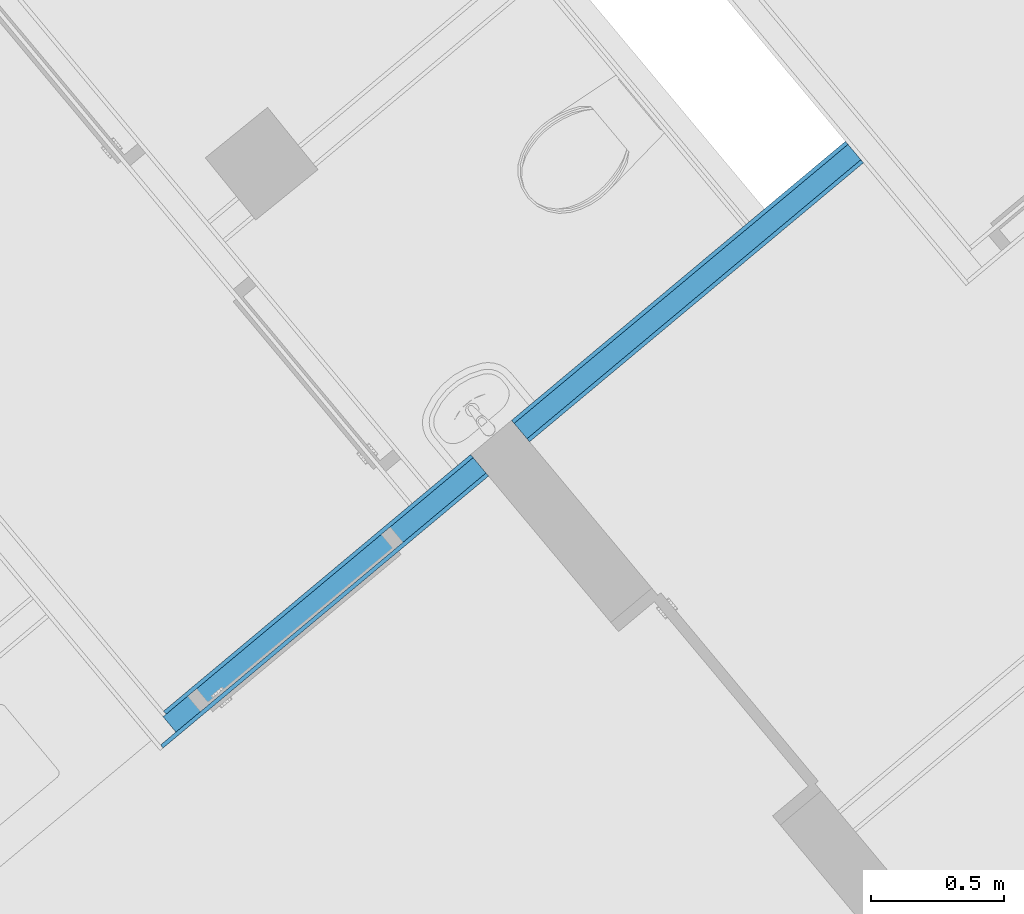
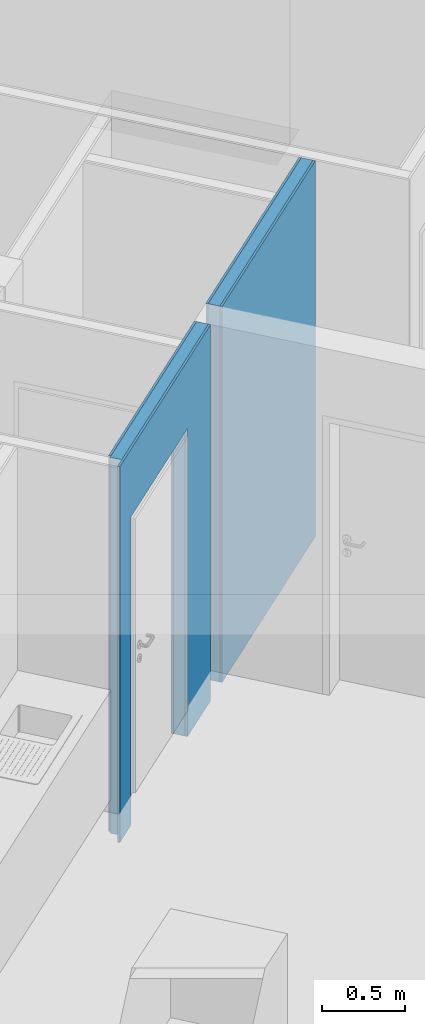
# One storey, part 12 of 53: 3 building element parts, 1 opening, 1 element without a shape of its own.
"""IFC4 building model written with IfcOpenShell, lengths in metres."""

from ifc_helpers import new_model, entity, si_unit, converted_unit, derived_unit, direction, frame, origin_with_axes, place, context, subcontext, project, spatial, polygons, material, type_object, element, aggregate, save


model = new_model("IFC4")

# Units and contexts
model_context = context("Model", 3, precision=1e-05, world=origin_with_axes(), true_north=direction((0.0, 1.0)))
body_context = subcontext(model_context, "Body", "Model", "MODEL_VIEW")
ifc_project = project(units=[si_unit("LENGTHUNIT", "METRE"), si_unit("AREAUNIT", "SQUARE_METRE"), si_unit("VOLUMEUNIT", "CUBIC_METRE"), converted_unit("PLANEANGLEUNIT", "DEGREE", entity("IfcPlaneAngleMeasure", 0.0174532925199), si_unit("PLANEANGLEUNIT", "RADIAN"), dimensions=[0, 0, 0, 0, 0, 0, 0]), converted_unit("TIMEUNIT", "Year", entity("IfcTimeMeasure", 31556926.0), si_unit("TIMEUNIT", "SECOND"), dimensions=[0, 0, 1, 0, 0, 0, 0]), si_unit("MASSUNIT", "GRAM", prefix="KILO"), si_unit("THERMODYNAMICTEMPERATUREUNIT", "DEGREE_CELSIUS"), si_unit("LUMINOUSINTENSITYUNIT", "LUMEN"), si_unit("ENERGYUNIT", "JOULE", prefix="MEGA"), derived_unit("THERMALCONDUCTANCEUNIT", [(si_unit("POWERUNIT", "WATT"), 1), (si_unit("LENGTHUNIT", "METRE"), -1), (si_unit("THERMODYNAMICTEMPERATUREUNIT", "KELVIN"), -1)]), derived_unit("SPECIFICHEATCAPACITYUNIT", [(si_unit("ENERGYUNIT", "JOULE"), 1), (si_unit("MASSUNIT", "GRAM", prefix="KILO"), -1), (si_unit("THERMODYNAMICTEMPERATUREUNIT", "KELVIN"), -1)]), derived_unit("MASSDENSITYUNIT", [(si_unit("MASSUNIT", "GRAM", prefix="KILO"), 1), (si_unit("VOLUMEUNIT", "CUBIC_METRE"), -1)])], contexts=[model_context])

# Site, building, storey
site_placement = place(None, frame((-0.00153261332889, -0.00661245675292, 0.0), z_axis=(0.0, 0.0, 1.0), x_axis=(1.0, 0.0, 0.0)))
site = spatial("IfcSite", under=ifc_project, at=site_placement, Name="Gelände", CompositionType="ELEMENT")
building_placement = place(site_placement, origin_with_axes())
building = spatial("IfcBuilding", under=site, at=building_placement, Name="Gebäude", CompositionType="ELEMENT")
storey_placement = place(building_placement, frame((0.0, 0.0, 2.74), z_axis=(0.0, 0.0, 1.0), x_axis=(1.0, 0.0, 0.0)))
storey = spatial("IfcBuildingStorey", under=building, at=storey_placement, Name="OG1", CompositionType="ELEMENT", Elevation=2.74)

# Wall, opening, building element parts
wall_type = type_object("IfcWallType", Name="IW LB 01 Leichtbautrennwand einfach 10,5 cm 105", PredefinedType="NOTDEFINED")
wall_placement = place(storey_placement, frame((-2.08312731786, 16.7658353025, 0.0), z_axis=(0.0, 0.0, 1.0), x_axis=(0.767365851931, 0.641209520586, 0.0)))
wall = element("IfcWall", 1, at=wall_placement, inside=storey, type_object=wall_type, Name="Wand-012", PredefinedType="NOTDEFINED")
opening_placement = place(wall_placement, frame((0.704535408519, 0.0, 0.22), z_axis=(0.0, 0.0, 1.0), x_axis=(1.0, 0.0, 0.0)))
element("IfcOpeningElement", 2, at=opening_placement, cuts=wall, Name="Tür-017", context=body_context, identifier="Reference", shape_type="Tessellation", body=[
    polygons([(0.495, 1.6911768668, 2.045), (0.495, 1.6911768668, -0.22), (-0.495, 1.6911768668, -0.22), (-0.495, 1.6911768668, 2.045), (0.495, -1.7961768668, 2.045), (0.495, -1.7961768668, -0.22), (-0.495, -1.7961768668, -0.22), (-0.495, -1.7961768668, 2.045)], [[[1, 2, 3, 4]], [[5, 6, 2, 1]], [[6, 7, 3, 2]], [[7, 8, 4, 3]], [[8, 5, 1, 4]], [[7, 6, 5, 8]]], closed=True),
])
ifc_material_1 = material(Name="Gipskarton")
building_element_part_1_placement = place(wall_placement, origin_with_axes())
building_element_part_1 = element("IfcBuildingElementPart", 3, at=building_element_part_1_placement, material=ifc_material_1, Name="Gipskarton", PredefinedType="NOTDEFINED", context=body_context, shape_type="Tessellation", body=[
    polygons([(0.209535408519, -0.015, 0.22), (0.209535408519, -0.015, 2.265), (1.19953540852, -0.015, 2.265), (1.19953540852, -0.015, 0.22), (1.19953540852, -0.015, 0.0), (1.60433833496, -0.015, 0.0), (1.60433833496, -0.015, 2.76), (0.105, -0.015, 2.76), (0.105, -0.015, 0.0), (0.209535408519, -0.015, 0.0), (0.209535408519, 7.71001129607e-08, 0.22), (0.209535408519, -3.17419406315e-08, 2.265), (1.19953540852, -3.17419441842e-08, 2.265), (1.19953540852, -3.17419441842e-08, 0.22), (1.19953540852, -3.17419424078e-08, 0.0), (1.60433833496, 0.0, 0.0), (1.60433833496, 0.0, 2.76), (0.105, 0.0, 2.76), (0.105, 0.0, 0.0), (0.209535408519, 7.71001129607e-08, 0.0)], [[[1, 2, 3, 4, 5, 6, 7, 8, 9, 10]], [[2, 1, 11, 12]], [[3, 2, 12, 13]], [[4, 3, 13, 14]], [[4, 14, 15, 5]], [[15, 16, 6, 5]], [[7, 6, 16, 17]], [[17, 18, 8, 7]], [[8, 18, 19, 9]], [[10, 9, 19, 20]], [[11, 1, 10, 20]], [[12, 11, 20, 19, 18, 17, 16, 15, 14, 13]]], closed=True),
    polygons([(3.43502357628, 0.0, 2.76), (1.80433833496, 0.0, 2.76), (1.80433833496, -0.015, 2.76), (3.43502357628, -0.015, 2.76), (3.43502357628, 0.0, 0.0), (1.80433833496, 0.0, 0.0), (1.80433833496, -0.015, 0.0), (3.43502357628, -0.015, 0.0)], [[[1, 2, 3, 4]], [[5, 6, 2, 1]], [[3, 2, 6, 7]], [[4, 3, 7, 8]], [[4, 8, 5, 1]], [[8, 7, 6, 5]]], closed=True),
])
ifc_material_2 = material(Name="Mineralwolle weich")
building_element_part_2_placement = place(wall_placement, origin_with_axes())
building_element_part_2 = element("IfcBuildingElementPart", 4, at=building_element_part_2_placement, material=ifc_material_2, Name="Mineralwolle weich", PredefinedType="NOTDEFINED", context=body_context, shape_type="Tessellation", body=[
    polygons([(0.209535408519, -0.09, 0.22), (0.209535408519, -0.09, 2.265), (1.19953540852, -0.09, 2.265), (1.19953540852, -0.09, 0.22), (1.19953540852, -0.09, 0.0), (1.60433833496, -0.09, 0.0), (1.60433833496, -0.09, 2.76), (0.0899999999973, -0.09, 2.76), (0.0899999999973, -0.09, 0.0), (0.209535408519, -0.09, 0.0), (0.209535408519, -0.015, 0.22), (0.209535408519, -0.015, 2.265), (1.19953540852, -0.015, 2.265), (1.19953540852, -0.015, 0.22), (1.19953540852, -0.015, 0.0), (1.60433833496, -0.015, 0.0), (1.60433833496, -0.015, 2.76), (0.0899999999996, -0.015, 2.76), (0.0899999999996, -0.015, 0.0), (0.209535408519, -0.015, 0.0)], [[[1, 2, 3, 4, 5, 6, 7, 8, 9, 10]], [[2, 1, 11, 12]], [[3, 2, 12, 13]], [[4, 3, 13, 14]], [[4, 14, 15, 5]], [[15, 16, 6, 5]], [[7, 6, 16, 17]], [[17, 18, 8, 7]], [[8, 18, 19, 9]], [[10, 9, 19, 20]], [[11, 1, 10, 20]], [[12, 11, 20, 19, 18, 17, 16, 15, 14, 13]]], closed=True),
    polygons([(3.43502357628, -0.015, 2.76), (1.80433833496, -0.015, 2.76), (1.80433833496, -0.09, 2.76), (3.43502357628, -0.09, 2.76), (3.43502357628, -0.015, 0.0), (1.80433833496, -0.015, 0.0), (1.80433833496, -0.09, 0.0), (3.43502357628, -0.09, 0.0)], [[[1, 2, 3, 4]], [[5, 6, 2, 1]], [[3, 2, 6, 7]], [[4, 3, 7, 8]], [[4, 8, 5, 1]], [[8, 7, 6, 5]]], closed=True),
])
building_element_part_3_placement = place(wall_placement, origin_with_axes())
building_element_part_3 = element("IfcBuildingElementPart", 5, at=building_element_part_3_placement, material=ifc_material_1, Name="Gipskarton", PredefinedType="NOTDEFINED", context=body_context, shape_type="Tessellation", body=[
    polygons([(0.209535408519, -0.105, 0.22), (0.209535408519, -0.105, 2.265), (1.19953540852, -0.105, 2.265), (1.19953540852, -0.105, 0.22), (1.19953540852, -0.105, 0.0), (1.60433833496, -0.105, 0.0), (1.60433833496, -0.105, 2.76), (0.0149999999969, -0.105, 2.76), (0.0149999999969, -0.105, 0.0), (0.209535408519, -0.105, 0.0), (0.209535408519, -0.09, 0.22), (0.209535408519, -0.09, 2.265), (1.19953540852, -0.09, 2.265), (1.19953540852, -0.09, 0.22), (1.19953540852, -0.09, 0.0), (1.60433833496, -0.09, 0.0), (1.60433833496, -0.09, 2.76), (0.0149999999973, -0.09, 2.76), (0.0149999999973, -0.09, 0.0), (0.209535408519, -0.09, 0.0)], [[[1, 2, 3, 4, 5, 6, 7, 8, 9, 10]], [[2, 1, 11, 12]], [[3, 2, 12, 13]], [[4, 3, 13, 14]], [[4, 14, 15, 5]], [[15, 16, 6, 5]], [[7, 6, 16, 17]], [[17, 18, 8, 7]], [[8, 18, 19, 9]], [[10, 9, 19, 20]], [[11, 1, 10, 20]], [[12, 11, 20, 19, 18, 17, 16, 15, 14, 13]]], closed=True),
    polygons([(3.43502357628, -0.09, 2.76), (1.80433833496, -0.09, 2.76), (1.80433833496, -0.105, 2.76), (3.43502357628, -0.105, 2.76), (3.43502357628, -0.09, 0.0), (1.80433833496, -0.09, 0.0), (1.80433833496, -0.105, 0.0), (3.43502357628, -0.105, 0.0)], [[[1, 2, 3, 4]], [[5, 6, 2, 1]], [[3, 2, 6, 7]], [[4, 3, 7, 8]], [[4, 8, 5, 1]], [[8, 7, 6, 5]]], closed=True),
])
aggregate(wall, [building_element_part_1, building_element_part_2, building_element_part_3])

save(model, "model.ifc")
